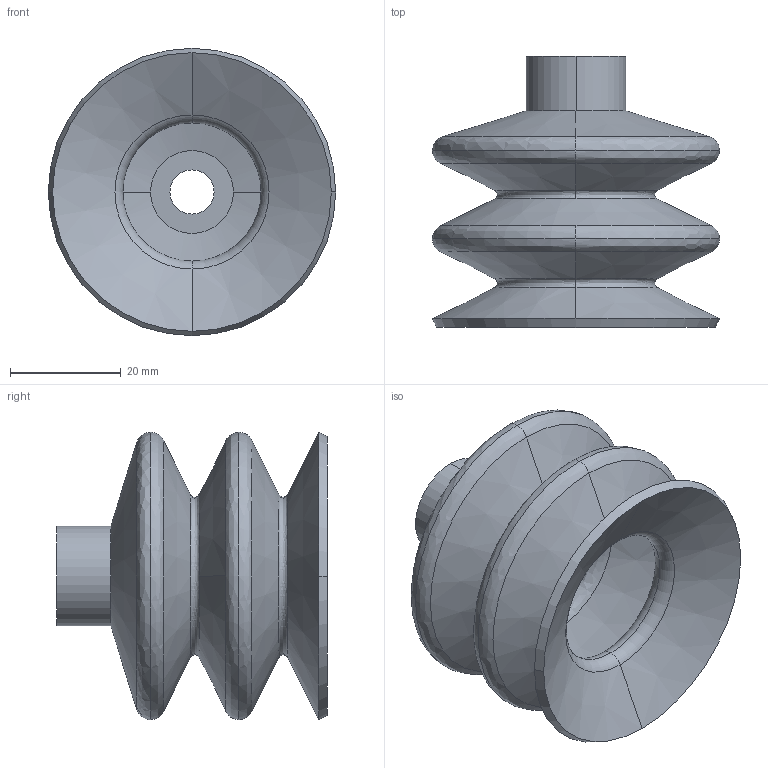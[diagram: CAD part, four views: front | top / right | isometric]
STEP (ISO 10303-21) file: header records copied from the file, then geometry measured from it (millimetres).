
FILE_DESCRIPTION (( 'STEP AP214' ), '1' );
FILE_NAME ('VS3-S52.STEP', '2019-11-13T08:54:28', ( '微软用户' ), ( '微软中国' ), 'SwSTEP 2.0', 'SolidWorks 2016', '' );
FILE_SCHEMA (( 'AUTOMOTIVE_DESIGN' ));
Length unit declared in the file: millimetre
Products named in the file (1): VS3-S52
Bounding box: 52 x 49 x 52 mm (x, y, z)
Volume: 19623.6 mm3; surface area: 19704.8 mm2
Topology: 1 solids, 1 shells, 54 faces, 122 edges, 70 vertices
Faces by surface type: cone 22, bspline 22, torus 4, cylinder 4, plane 2
Entity records: 1788 total; most frequent: CARTESIAN_POINT 643, ORIENTED_EDGE 244, DIRECTION 240, EDGE_CURVE 122, AXIS2_PLACEMENT_3D 107, CIRCLE 74, VERTEX_POINT 70, EDGE_LOOP 56
